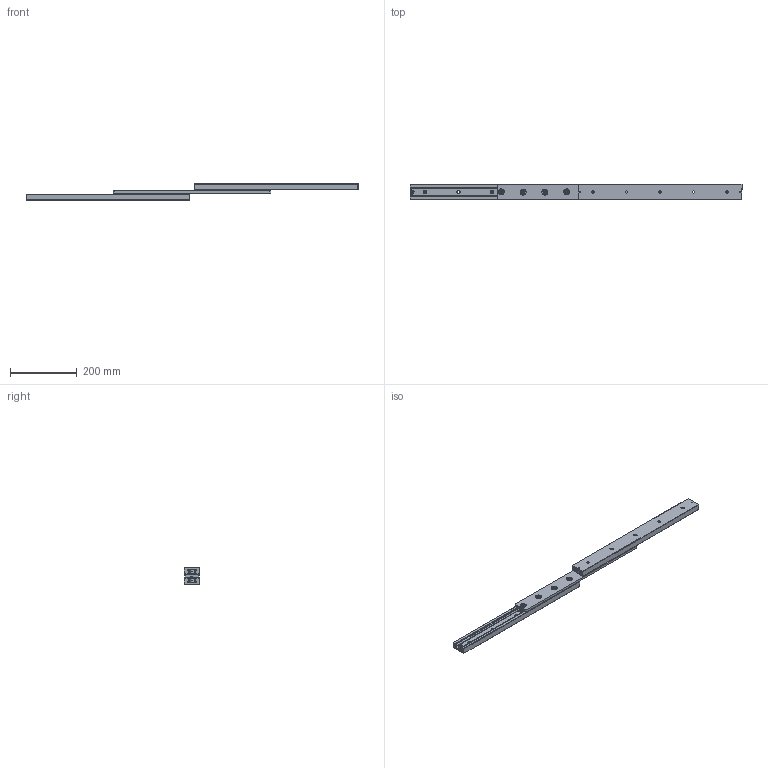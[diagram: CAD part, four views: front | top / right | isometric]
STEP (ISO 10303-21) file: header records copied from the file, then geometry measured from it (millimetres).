
FILE_DESCRIPTION (( 'STEP AP214' ), '1' );
FILE_NAME ('LSIM45DFL.STEP', '2021-06-14T01:47:21', ( '' ), ( '' ), 'SwSTEP 2.0', 'SolidWorks 2019', '' );
FILE_SCHEMA (( 'AUTOMOTIVE_DESIGN' ));
Length unit declared in the file: millimetre
Products named in the file (4): LSIM45DFLレール; LSIM45DFLリテーナ; LSIM45ストッパー; LSIM45DFL
Assembly tree (7 placements, depth 2):
  LSIM45DFL
    LSIM45DFLリテーナ
    LSIM45DFLレール  x2
    LSIM45ストッパー  x4
Bounding box: 992 x 45 x 49 mm (x, y, z)
Volume: 687136.8 mm3; surface area: 225442.8 mm2
Topology: 7 solids, 7 shells, 454 faces, 962 edges, 604 vertices
Faces by surface type: plane 214, cylinder 128, cone 104, torus 8
Full cylindrical faces by diameter (mm): 3.3 x4, 4 x4, 5 x4, 6 x8, 6.6 x10, 8 x4, 10.6 x16, 11 x18, 12 x4, 18 x8, 20 x16
Entity records: 8791 total; most frequent: CARTESIAN_POINT 1823, DIRECTION 1447, ORIENTED_EDGE 1270, AXIS2_PLACEMENT_3D 642, EDGE_CURVE 635, EDGE_LOOP 519, VERTEX_POINT 442, FACE_OUTER_BOUND 432
